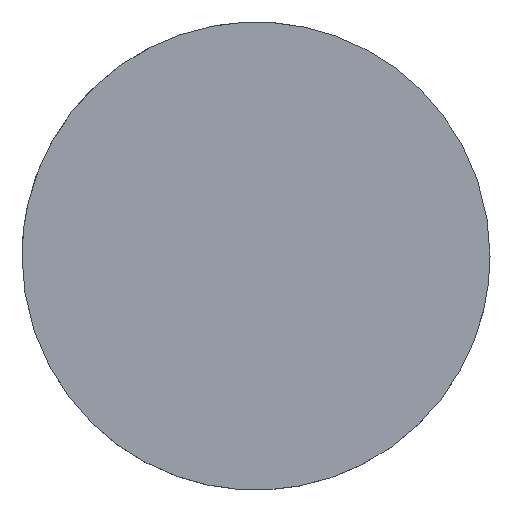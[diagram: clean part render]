
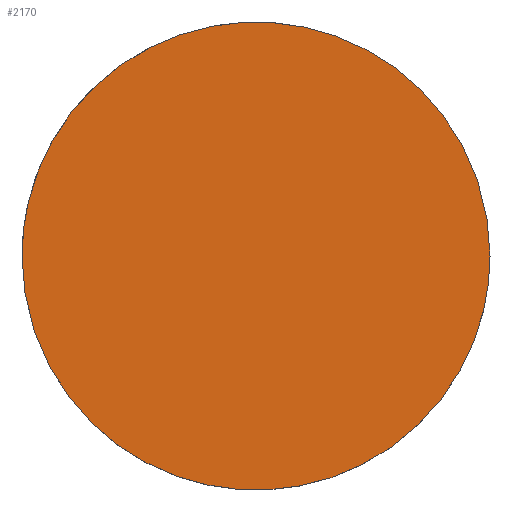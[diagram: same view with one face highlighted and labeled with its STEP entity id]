
A CAD part, top view. The second image highlights one B-rep face of the part: STEP entity #2170.
In plain terms, the highlighted planar face has unit normal (0, 0, 1).
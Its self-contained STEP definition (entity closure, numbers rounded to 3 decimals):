
#190 = CARTESIAN_POINT ('', (-25., 0., -70.619));
#200 = VERTEX_POINT ('', #190);
#260 = CARTESIAN_POINT ('', (25., 0., -70.619));
#270 = VERTEX_POINT ('', #260);
#280 = CARTESIAN_POINT ('', (25., 0., -70.619));
#290 = CARTESIAN_POINT ('', (25., 25., -70.619));
#300 = CARTESIAN_POINT ('', (0., 25., -70.619));
#310 = CARTESIAN_POINT ('', (-25., 25., -70.619));
#320 = CARTESIAN_POINT ('', (-25., 0., -70.619));
#330 = (
   BOUNDED_CURVE ()
   B_SPLINE_CURVE (2, (#280, #290, #300, #310, #320), .UNSPECIFIED., .F., .U.)
   B_SPLINE_CURVE_WITH_KNOTS ((3, 2, 3), (0., 1.571, 3.142), .UNSPECIFIED.)
   CURVE ()
   GEOMETRIC_REPRESENTATION_ITEM ()
   RATIONAL_B_SPLINE_CURVE ((1., 0.707, 1., 0.707, 1.))
   REPRESENTATION_ITEM ('')
);
#340 = EDGE_CURVE ('', #270, #200, #330, .T.);
#580 = CARTESIAN_POINT ('', (-25., 0., -70.619));
#590 = CARTESIAN_POINT ('', (-25., -25., -70.619));
#600 = CARTESIAN_POINT ('', (0., -25., -70.619));
#610 = CARTESIAN_POINT ('', (25., -25., -70.619));
#620 = CARTESIAN_POINT ('', (25., 0., -70.619));
#630 = (
   BOUNDED_CURVE ()
   B_SPLINE_CURVE (2, (#580, #590, #600, #610, #620), .UNSPECIFIED., .F., .U.)
   B_SPLINE_CURVE_WITH_KNOTS ((3, 2, 3), (3.142, 4.712, 6.283), .UNSPECIFIED.)
   CURVE ()
   GEOMETRIC_REPRESENTATION_ITEM ()
   RATIONAL_B_SPLINE_CURVE ((1., 0.707, 1., 0.707, 1.))
   REPRESENTATION_ITEM ('')
);
#640 = EDGE_CURVE ('', #200, #270, #630, .T.);
#2080 = ORIENTED_EDGE ('', *, *, #340, .T.);
#2090 = ORIENTED_EDGE ('', *, *, #640, .T.);
#2100 = EDGE_LOOP ('', (#2080, #2090));
#2110 = FACE_OUTER_BOUND ('', #2100, .T.);
#2120 = CARTESIAN_POINT ('', (0., 51.204, -70.619));
#2130 = DIRECTION ('', (0., 0., 1.));
#2140 = DIRECTION ('', (-0.707, -0.707, 0.));
#2150 = AXIS2_PLACEMENT_3D ('', #2120, #2130, #2140);
#2160 = PLANE ('', #2150);
#2170 = ADVANCED_FACE ('', (#2110), #2160, .T.);
